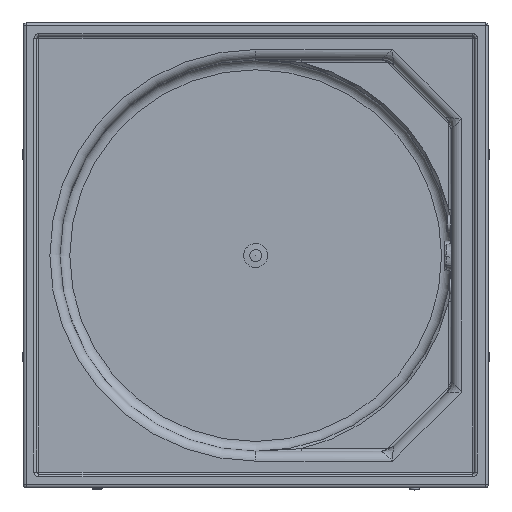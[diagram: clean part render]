
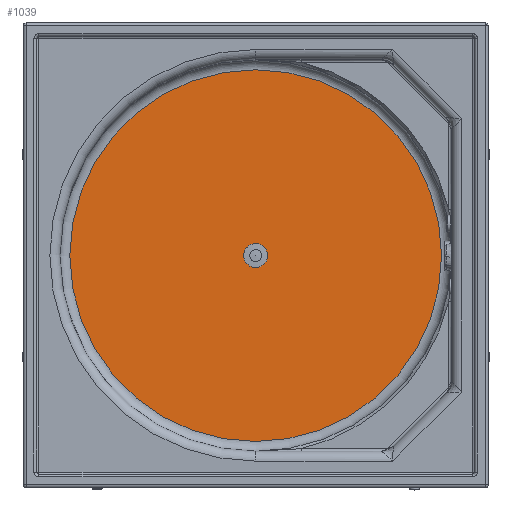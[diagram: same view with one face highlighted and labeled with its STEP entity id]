
A CAD part, top view. The second image highlights one B-rep face of the part: STEP entity #1039.
In plain terms, the highlighted planar face has unit normal (0, 0, 1).
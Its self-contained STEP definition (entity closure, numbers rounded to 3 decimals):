
#870=CARTESIAN_POINT('',(-27.204,14.858,-570.0));
#871=VERTEX_POINT('',#870);
#872=CARTESIAN_POINT('',(0.001,-0.004,-570.0));
#873=DIRECTION('',(0.0,0.0,1.0));
#874=DIRECTION('',(1.0,0.0,0.0));
#875=AXIS2_PLACEMENT_3D('',#872,#873,#874);
#876=CIRCLE('',#875,31.0);
#877=EDGE_CURVE('',#871,#871,#876,.T.);
#1020=CARTESIAN_POINT('',(0.0,0.0,-570.0));
#1021=DIRECTION('',(0.0,0.0,1.0));
#1022=DIRECTION('',(1.0,0.0,0.0));
#1023=AXIS2_PLACEMENT_3D('',#1020,#1021,#1022);
#1024=PLANE('',#1023);
#1025=CARTESIAN_POINT('',(0.,-560.0,-570.0));
#1026=VERTEX_POINT('',#1025);
#1027=CARTESIAN_POINT('',(0.,0.,-570.0));
#1028=DIRECTION('',(0.0,0.0,1.0));
#1029=DIRECTION('',(1.0,0.0,0.0));
#1030=AXIS2_PLACEMENT_3D('',#1027,#1028,#1029);
#1031=CIRCLE('',#1030,560.0);
#1032=EDGE_CURVE('',#1026,#1026,#1031,.T.);
#1033=ORIENTED_EDGE('',*,*,#1032,.T.);
#1034=EDGE_LOOP('',(#1033));
#1035=FACE_OUTER_BOUND('',#1034,.T.);
#1036=ORIENTED_EDGE('',*,*,#877,.F.);
#1037=EDGE_LOOP('',(#1036));
#1038=FACE_BOUND('',#1037,.T.);
#1039=ADVANCED_FACE('',(#1035,#1038),#1024,.T.);
